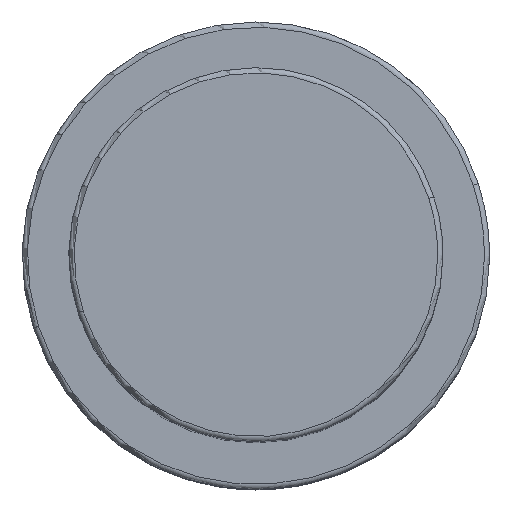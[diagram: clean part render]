
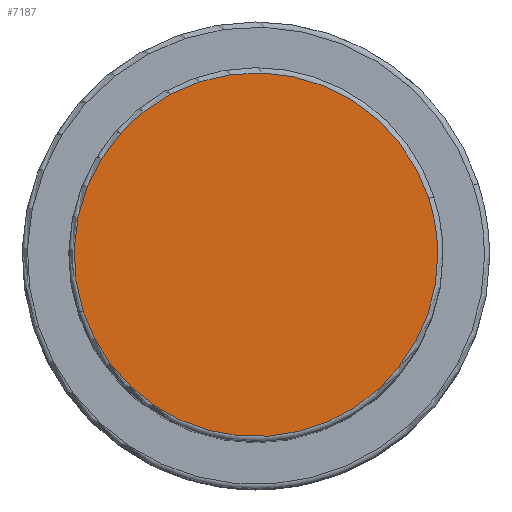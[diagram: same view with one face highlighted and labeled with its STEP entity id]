
A CAD part, top view. The second image highlights one B-rep face of the part: STEP entity #7187.
In plain terms, the highlighted planar face has unit normal (0, 0, 1).
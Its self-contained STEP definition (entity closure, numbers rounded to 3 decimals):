
#7153=CARTESIAN_POINT('',(17.5,0.0,83.0));
#7154=VERTEX_POINT('',#7153);
#7155=CARTESIAN_POINT('',(16.643,5.408,83.0));
#7156=VERTEX_POINT('',#7155);
#7157=CARTESIAN_POINT('',(0.0,0.0,83.0));
#7158=DIRECTION('',(0.0,0.0,1.0));
#7159=DIRECTION('',(1.0,0.0,0.0));
#7160=AXIS2_PLACEMENT_3D('',#7157,#7158,#7159);
#7161=CIRCLE('',#7160,17.5);
#7162=EDGE_CURVE('no 3631',#7154,#7156,#7161,.T.);
#7163=ORIENTED_EDGE('',*,*,#7162,.T.);
#7164=CARTESIAN_POINT('',(-16.643,-5.408,83.0));
#7165=VERTEX_POINT('',#7164);
#7166=CARTESIAN_POINT('',(0.0,0.0,83.0));
#7167=DIRECTION('',(0.0,0.0,1.0));
#7168=DIRECTION('',(1.0,0.0,0.0));
#7169=AXIS2_PLACEMENT_3D('',#7166,#7167,#7168);
#7170=CIRCLE('',#7169,17.5);
#7171=EDGE_CURVE('no 3637',#7156,#7165,#7170,.T.);
#7172=ORIENTED_EDGE('',*,*,#7171,.T.);
#7173=CARTESIAN_POINT('',(0.0,0.0,83.0));
#7174=DIRECTION('',(0.0,0.0,1.0));
#7175=DIRECTION('',(1.0,0.0,0.0));
#7176=AXIS2_PLACEMENT_3D('',#7173,#7174,#7175);
#7177=CIRCLE('',#7176,17.5);
#7178=EDGE_CURVE('no 3641',#7165,#7154,#7177,.T.);
#7179=ORIENTED_EDGE('',*,*,#7178,.T.);
#7180=EDGE_LOOP('',(#7163,#7172,#7179));
#7181=FACE_OUTER_BOUND('',#7180,.T.);
#7182=CARTESIAN_POINT('',(0.0,0.0,83.0));
#7183=DIRECTION('',(0.0,0.0,1.0));
#7184=DIRECTION('',(1.0,0.0,0.0));
#7185=AXIS2_PLACEMENT_3D('',#7182,#7183,#7184);
#7186=PLANE('',#7185);
#7187=ADVANCED_FACE('no 3622',(#7181),#7186,.T.);
